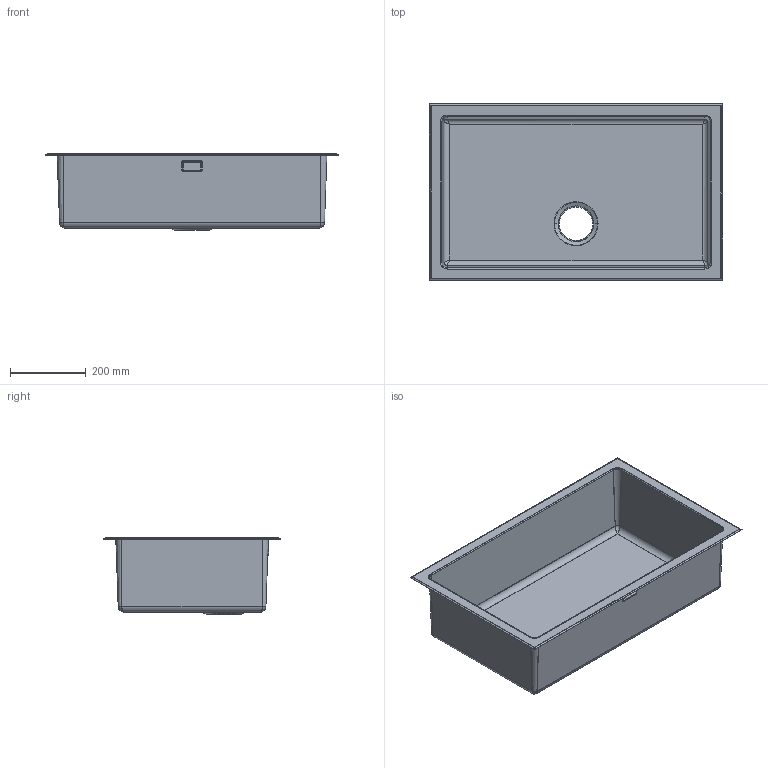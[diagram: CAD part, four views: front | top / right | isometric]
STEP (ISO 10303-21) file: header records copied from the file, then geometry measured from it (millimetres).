
FILE_DESCRIPTION(('CATIA V5 STEP Exchange'),'2;1');
FILE_NAME('\\sr02\Apell\Disegni\DISEGNI\LAVELLI\Radius\STP\4200228.stp','2017-10-17T13:32:38+00:00',('none'),('none'),'CATIA Version 5-6 Release 2014','CATIA V5 STEP AP203','none');
FILE_SCHEMA(('CONFIG_CONTROL_DESIGN'));
Length unit declared in the file: millimetre
Products named in the file (1): Part1
Bounding box: 775 x 466 x 200.9 mm (x, y, z)
Volume: 675406.5 mm3; surface area: 1503675.9 mm2
Topology: 1 solids, 1 shells, 166 faces, 372 edges, 208 vertices
Faces by surface type: plane 54, bspline 52, cylinder 44, torus 8, sphere 8
Entity records: 10597 total; most frequent: CARTESIAN_POINT 7399, ORIENTED_EDGE 736, DIRECTION 452, EDGE_CURVE 368, VERTEX_POINT 208, EDGE_LOOP 174, VECTOR 170, LINE 170
